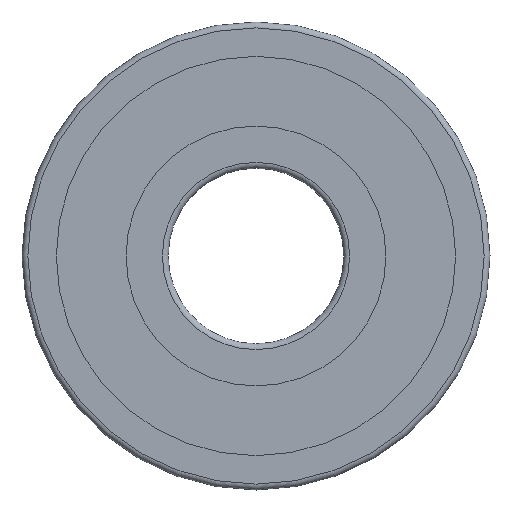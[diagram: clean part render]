
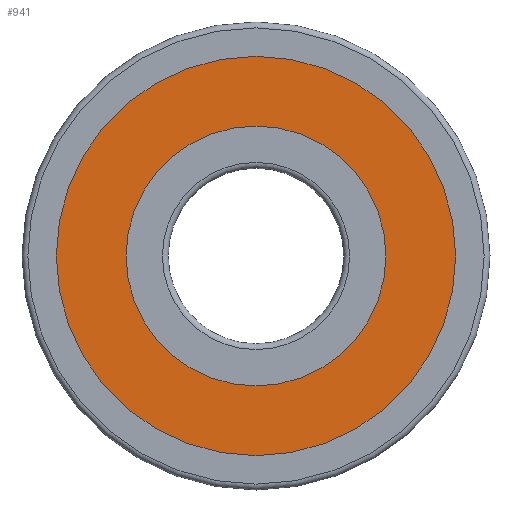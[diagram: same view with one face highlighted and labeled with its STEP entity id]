
A CAD part, left-side view. The second image highlights one B-rep face of the part: STEP entity #941.
In plain terms, the highlighted planar face has unit normal (-1, 0, 0).
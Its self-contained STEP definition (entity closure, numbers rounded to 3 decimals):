
#153=PLANE($,#1103);
#193=FACE_BOUND($,#332,.T.);
#194=FACE_BOUND($,#333,.T.);
#332=EDGE_LOOP($,(#874));
#333=EDGE_LOOP($,(#875));
#423=CIRCLE($,#1102,6.662);
#424=CIRCLE($,#1104,10.238);
#513=VERTEX_POINT($,#2398);
#514=VERTEX_POINT($,#2401);
#634=EDGE_CURVE($,#513,#513,#423,.T.);
#635=EDGE_CURVE($,#514,#514,#424,.T.);
#874=ORIENTED_EDGE($,*,*,#634,.T.);
#875=ORIENTED_EDGE($,*,*,#635,.F.);
#941=ADVANCED_FACE($,(#193,#194),#153,.T.);
#1102=AXIS2_PLACEMENT_3D($,#2399,#1419,#1420);
#1103=AXIS2_PLACEMENT_3D($,#2400,#1421,#1422);
#1104=AXIS2_PLACEMENT_3D($,#2402,#1423,#1424);
#1419=DIRECTION('center_axis',(1.,0.,0.));
#1420=DIRECTION('ref_axis',(0.,0.,-1.));
#1421=DIRECTION('center_axis',(-1.,0.,0.));
#1422=DIRECTION('ref_axis',(0.,0.,1.));
#1423=DIRECTION('center_axis',(1.,0.,0.));
#1424=DIRECTION('ref_axis',(0.,0.,-1.));
#2398=CARTESIAN_POINT('',(-3.5,6.662,0.));
#2399=CARTESIAN_POINT('Origin',(-3.5,0.,0.));
#2400=CARTESIAN_POINT('Origin',(-3.5,10.238,0.));
#2401=CARTESIAN_POINT('',(-3.5,10.238,0.));
#2402=CARTESIAN_POINT('Origin',(-3.5,0.,0.));
